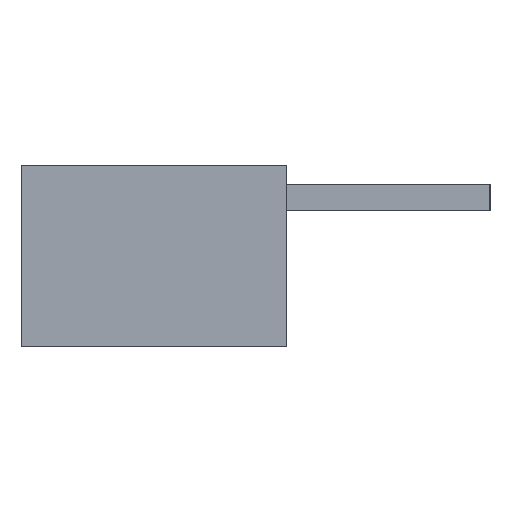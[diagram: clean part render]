
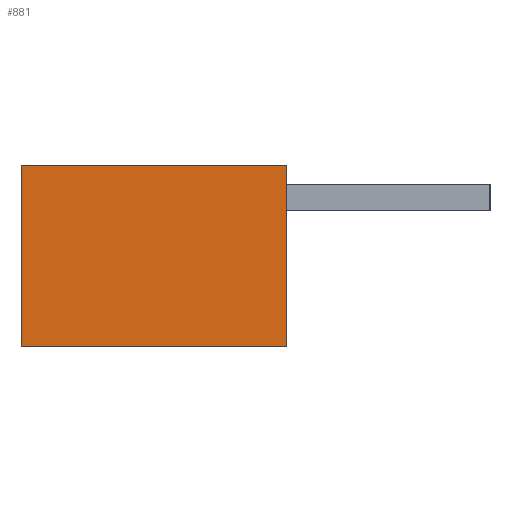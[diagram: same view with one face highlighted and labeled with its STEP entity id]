
A CAD part, left-side view. The second image highlights one B-rep face of the part: STEP entity #881.
In plain terms, the highlighted planar face has unit normal (-1, 0, 0).
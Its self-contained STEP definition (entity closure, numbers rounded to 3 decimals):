
#307 = CARTESIAN_POINT ( 'NONE',  ( 0., 0., -9.6 ) ) ;
#425 = CARTESIAN_POINT ( 'NONE',  ( 0., 14., 0. ) ) ;
#430 = CARTESIAN_POINT ( 'NONE',  ( 0., 14., -9.6 ) ) ;
#881 = ADVANCED_FACE ( 'NONE', ( #1809 ), #7694, .F. ) ;
#929 = CARTESIAN_POINT ( 'NONE',  ( 0., 0., -9.6 ) ) ;
#1042 = DIRECTION ( 'NONE',  ( 0., -1., 0. ) ) ;
#1493 = DIRECTION ( 'NONE',  ( 0., 0., -1. ) ) ;
#1635 = AXIS2_PLACEMENT_3D ( 'NONE', #2777, #3342, #1493 ) ;
#1671 = CARTESIAN_POINT ( 'NONE',  ( 0., 0., 0. ) ) ;
#1680 = VERTEX_POINT ( 'NONE', #430 ) ;
#1745 = VECTOR ( 'NONE', #7756, 1000. ) ;
#1798 = ORIENTED_EDGE ( 'NONE', *, *, #6733, .F. ) ;
#1809 = FACE_OUTER_BOUND ( 'NONE', #6309, .T. ) ;
#1969 = LINE ( 'NONE', #5063, #5035 ) ;
#2258 = CARTESIAN_POINT ( 'NONE',  ( 0., 14., -9.6 ) ) ;
#2777 = CARTESIAN_POINT ( 'NONE',  ( 0., 0., 0. ) ) ;
#2789 = ORIENTED_EDGE ( 'NONE', *, *, #6841, .F. ) ;
#3342 = DIRECTION ( 'NONE',  ( 1., 0., 0. ) ) ;
#3398 = LINE ( 'NONE', #425, #3694 ) ;
#3487 = VECTOR ( 'NONE', #5241, 1000. ) ;
#3626 = EDGE_CURVE ( 'NONE', #5535, #7485, #7311, .T. ) ;
#3694 = VECTOR ( 'NONE', #1042, 1000. ) ;
#4060 = CARTESIAN_POINT ( 'NONE',  ( 0., 14., 0. ) ) ;
#5035 = VECTOR ( 'NONE', #6919, 1000. ) ;
#5063 = CARTESIAN_POINT ( 'NONE',  ( 0., 0., -9.6 ) ) ;
#5241 = DIRECTION ( 'NONE',  ( 0., 0., -1. ) ) ;
#5535 = VERTEX_POINT ( 'NONE', #1671 ) ;
#5595 = LINE ( 'NONE', #2258, #1745 ) ;
#6214 = ORIENTED_EDGE ( 'NONE', *, *, #3626, .F. ) ;
#6309 = EDGE_LOOP ( 'NONE', ( #6528, #6214, #1798, #2789 ) ) ;
#6384 = EDGE_CURVE ( 'NONE', #7485, #1680, #1969, .T. ) ;
#6528 = ORIENTED_EDGE ( 'NONE', *, *, #6384, .F. ) ;
#6733 = EDGE_CURVE ( 'NONE', #7409, #5535, #3398, .T. ) ;
#6841 = EDGE_CURVE ( 'NONE', #1680, #7409, #5595, .T. ) ;
#6919 = DIRECTION ( 'NONE',  ( 0., 1., 0. ) ) ;
#7311 = LINE ( 'NONE', #929, #3487 ) ;
#7409 = VERTEX_POINT ( 'NONE', #4060 ) ;
#7485 = VERTEX_POINT ( 'NONE', #307 ) ;
#7694 = PLANE ( 'NONE',  #1635 ) ;
#7756 = DIRECTION ( 'NONE',  ( 0., 0., 1. ) ) ;
